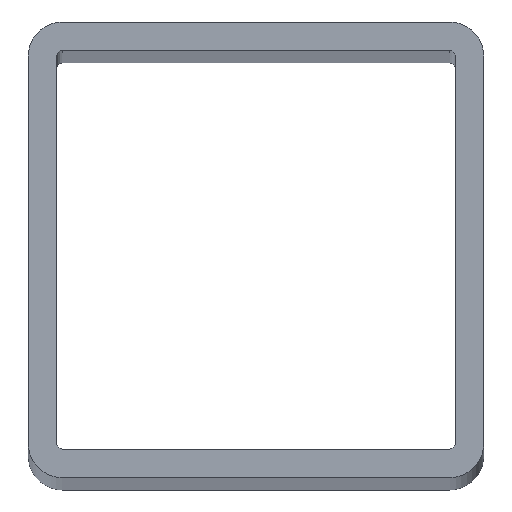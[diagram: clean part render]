
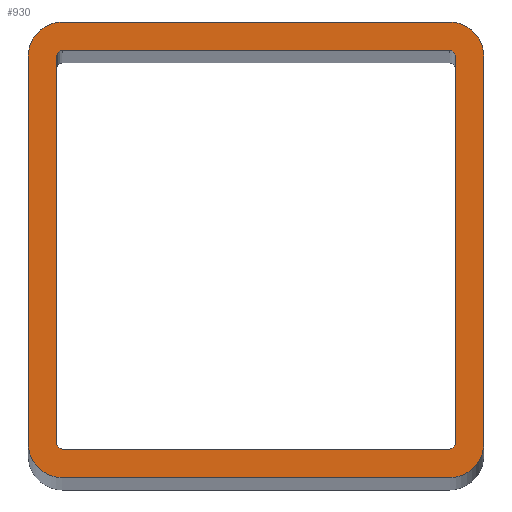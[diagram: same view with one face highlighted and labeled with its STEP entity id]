
A CAD part, top view. The second image highlights one B-rep face of the part: STEP entity #930.
In plain terms, the highlighted planar face has unit normal (0, 0, 1).
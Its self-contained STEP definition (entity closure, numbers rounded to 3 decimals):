
#440=CARTESIAN_POINT('',(-34.,34.,625.));
#441=DIRECTION('',(0.,0.,1.));
#442=DIRECTION('',(0.,1.,0.));
#443=AXIS2_PLACEMENT_3D('',#440,#441,#442);
#448=DIRECTION('',(-1.,0.,0.));
#449=VECTOR('',#448,68.);
#450=CARTESIAN_POINT('',(34.,40.,625.));
#451=LINE('',#450,#449);
#455=CARTESIAN_POINT('',(34.,34.,625.));
#456=DIRECTION('',(0.,0.,1.));
#457=DIRECTION('',(1.,0.,0.));
#458=AXIS2_PLACEMENT_3D('',#455,#456,#457);
#463=DIRECTION('',(0.,1.,0.));
#464=VECTOR('',#463,68.);
#465=CARTESIAN_POINT('',(40.,-34.,625.));
#466=LINE('',#465,#464);
#470=CARTESIAN_POINT('',(34.,-34.,625.));
#471=DIRECTION('',(0.,0.,1.));
#472=DIRECTION('',(0.,-1.,0.));
#473=AXIS2_PLACEMENT_3D('',#470,#471,#472);
#478=DIRECTION('',(1.,0.,0.));
#479=VECTOR('',#478,68.);
#480=CARTESIAN_POINT('',(-34.,-40.,625.));
#481=LINE('',#480,#479);
#485=CARTESIAN_POINT('',(-34.,-34.,625.));
#486=DIRECTION('',(0.,0.,1.));
#487=DIRECTION('',(-1.,0.,0.));
#488=AXIS2_PLACEMENT_3D('',#485,#486,#487);
#493=DIRECTION('',(0.,-1.,0.));
#494=VECTOR('',#493,68.);
#495=CARTESIAN_POINT('',(-40.,34.,625.));
#496=LINE('',#495,#494);
#500=DIRECTION('',(1.,0.,0.));
#501=VECTOR('',#500,68.);
#502=CARTESIAN_POINT('',(-34.,35.,625.));
#503=LINE('',#502,#501);
#507=CARTESIAN_POINT('',(-34.,34.,625.));
#508=DIRECTION('',(0.,0.,-1.));
#509=DIRECTION('',(-1.,0.,0.));
#510=AXIS2_PLACEMENT_3D('',#507,#508,#509);
#515=DIRECTION('',(0.,1.,0.));
#516=VECTOR('',#515,68.);
#517=CARTESIAN_POINT('',(-35.,-34.,625.));
#518=LINE('',#517,#516);
#522=CARTESIAN_POINT('',(-34.,-34.,625.));
#523=DIRECTION('',(0.,0.,-1.));
#524=DIRECTION('',(0.,-1.,0.));
#525=AXIS2_PLACEMENT_3D('',#522,#523,#524);
#530=DIRECTION('',(-1.,0.,0.));
#531=VECTOR('',#530,68.);
#532=CARTESIAN_POINT('',(34.,-35.,625.));
#533=LINE('',#532,#531);
#537=CARTESIAN_POINT('',(34.,-34.,625.));
#538=DIRECTION('',(0.,0.,-1.));
#539=DIRECTION('',(1.,0.,0.));
#540=AXIS2_PLACEMENT_3D('',#537,#538,#539);
#545=DIRECTION('',(0.,-1.,0.));
#546=VECTOR('',#545,68.);
#547=CARTESIAN_POINT('',(35.,34.,625.));
#548=LINE('',#547,#546);
#552=CARTESIAN_POINT('',(34.,34.,625.));
#553=DIRECTION('',(0.,0.,-1.));
#554=DIRECTION('',(0.,1.,0.));
#555=AXIS2_PLACEMENT_3D('',#552,#553,#554);
#648=CARTESIAN_POINT('',(-34.,40.,625.));
#649=CARTESIAN_POINT('',(-40.,34.,625.));
#650=VERTEX_POINT('',#648);
#651=VERTEX_POINT('',#649);
#652=CARTESIAN_POINT('',(-40.,-34.,625.));
#653=VERTEX_POINT('',#652);
#654=CARTESIAN_POINT('',(-34.,-40.,625.));
#655=VERTEX_POINT('',#654);
#656=CARTESIAN_POINT('',(34.,-40.,625.));
#657=VERTEX_POINT('',#656);
#658=CARTESIAN_POINT('',(40.,-34.,625.));
#659=VERTEX_POINT('',#658);
#660=CARTESIAN_POINT('',(40.,34.,625.));
#661=VERTEX_POINT('',#660);
#662=CARTESIAN_POINT('',(34.,40.,625.));
#663=VERTEX_POINT('',#662);
#664=CARTESIAN_POINT('',(-34.,35.,625.));
#665=CARTESIAN_POINT('',(34.,35.,625.));
#666=VERTEX_POINT('',#664);
#667=VERTEX_POINT('',#665);
#668=CARTESIAN_POINT('',(35.,34.,625.));
#669=VERTEX_POINT('',#668);
#670=CARTESIAN_POINT('',(35.,-34.,625.));
#671=VERTEX_POINT('',#670);
#672=CARTESIAN_POINT('',(34.,-35.,625.));
#673=VERTEX_POINT('',#672);
#674=CARTESIAN_POINT('',(-34.,-35.,625.));
#675=VERTEX_POINT('',#674);
#676=CARTESIAN_POINT('',(-35.,-34.,625.));
#677=VERTEX_POINT('',#676);
#678=CARTESIAN_POINT('',(-35.,34.,625.));
#679=VERTEX_POINT('',#678);
#897=CARTESIAN_POINT('',(0.,0.,625.));
#898=DIRECTION('',(0.,0.,1.));
#899=DIRECTION('',(1.,0.,0.));
#900=AXIS2_PLACEMENT_3D('',#897,#898,#899);
#901=PLANE('',#900);
#902=ORIENTED_EDGE('',*,*,#737,.F.);
#903=ORIENTED_EDGE('',*,*,#759,.F.);
#904=ORIENTED_EDGE('',*,*,#780,.F.);
#905=ORIENTED_EDGE('',*,*,#801,.F.);
#906=ORIENTED_EDGE('',*,*,#822,.F.);
#907=ORIENTED_EDGE('',*,*,#843,.F.);
#908=ORIENTED_EDGE('',*,*,#864,.F.);
#909=ORIENTED_EDGE('',*,*,#884,.F.);
#910=EDGE_LOOP('',(#902,#903,#904,#905,#906,#907,#908,#909));
#911=FACE_OUTER_BOUND('',#910,.F.);
#913=ORIENTED_EDGE('',*,*,#912,.F.);
#915=ORIENTED_EDGE('',*,*,#914,.F.);
#917=ORIENTED_EDGE('',*,*,#916,.F.);
#919=ORIENTED_EDGE('',*,*,#918,.F.);
#921=ORIENTED_EDGE('',*,*,#920,.F.);
#923=ORIENTED_EDGE('',*,*,#922,.F.);
#925=ORIENTED_EDGE('',*,*,#924,.F.);
#927=ORIENTED_EDGE('',*,*,#926,.F.);
#928=EDGE_LOOP('',(#913,#915,#917,#919,#921,#923,#925,#927));
#929=FACE_BOUND('',#928,.F.);
#444=CIRCLE('',#443,6.);
#459=CIRCLE('',#458,6.);
#474=CIRCLE('',#473,6.);
#489=CIRCLE('',#488,6.);
#511=CIRCLE('',#510,1.);
#526=CIRCLE('',#525,1.);
#541=CIRCLE('',#540,1.);
#556=CIRCLE('',#555,1.);
#737=EDGE_CURVE('',#650,#651,#444,.T.);
#759=EDGE_CURVE('',#663,#650,#451,.T.);
#780=EDGE_CURVE('',#661,#663,#459,.T.);
#801=EDGE_CURVE('',#659,#661,#466,.T.);
#822=EDGE_CURVE('',#657,#659,#474,.T.);
#843=EDGE_CURVE('',#655,#657,#481,.T.);
#864=EDGE_CURVE('',#653,#655,#489,.T.);
#884=EDGE_CURVE('',#651,#653,#496,.T.);
#912=EDGE_CURVE('',#666,#667,#503,.T.);
#914=EDGE_CURVE('',#679,#666,#511,.T.);
#916=EDGE_CURVE('',#677,#679,#518,.T.);
#918=EDGE_CURVE('',#675,#677,#526,.T.);
#920=EDGE_CURVE('',#673,#675,#533,.T.);
#922=EDGE_CURVE('',#671,#673,#541,.T.);
#924=EDGE_CURVE('',#669,#671,#548,.T.);
#926=EDGE_CURVE('',#667,#669,#556,.T.);
#930=ADVANCED_FACE('',(#911,#929),#901,.T.);
